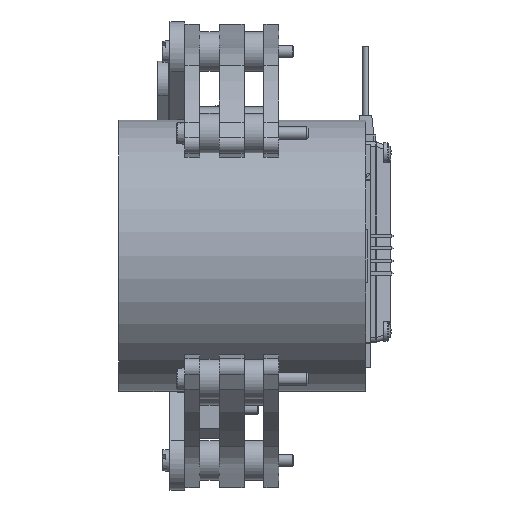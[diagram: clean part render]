
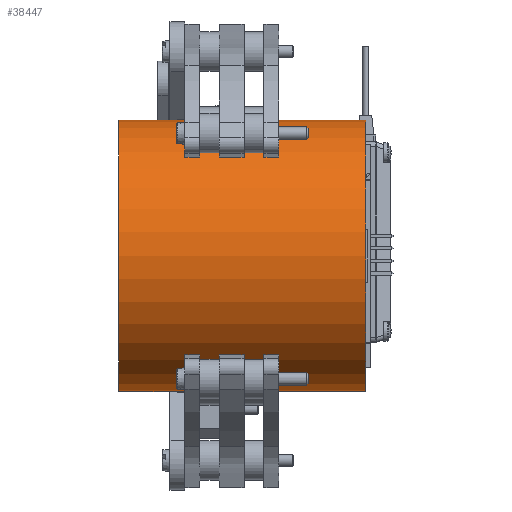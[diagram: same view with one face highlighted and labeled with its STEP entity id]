
A CAD part, left-side view. The second image highlights one B-rep face of the part: STEP entity #38447.
In plain terms, the highlighted cylindrical face has radius 27.5 mm (diameter 55 mm), a full revolution.
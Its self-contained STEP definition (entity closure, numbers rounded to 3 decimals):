
#6164=FACE_OUTER_BOUND('',#8478,.T.);
#8478=EDGE_LOOP('',(#35933,#35934,#35935,#35936));
#11711=LINE('',#90463,#14938);
#14938=VECTOR('',#50576,27.5);
#15907=CIRCLE('',#41818,27.5);
#15908=CIRCLE('',#41819,27.5);
#19491=VERTEX_POINT('',#90460);
#19492=VERTEX_POINT('',#90462);
#24973=EDGE_CURVE('',#19491,#19491,#15907,.T.);
#24974=EDGE_CURVE('',#19491,#19492,#11711,.T.);
#24975=EDGE_CURVE('',#19492,#19492,#15908,.T.);
#35933=ORIENTED_EDGE('',*,*,#24973,.F.);
#35934=ORIENTED_EDGE('',*,*,#24974,.T.);
#35935=ORIENTED_EDGE('',*,*,#24975,.F.);
#35936=ORIENTED_EDGE('',*,*,#24974,.F.);
#36361=CYLINDRICAL_SURFACE('',#41817,27.5);
#38447=ADVANCED_FACE('',(#6164),#36361,.T.);
#41817=AXIS2_PLACEMENT_3D('',#90459,#50572,#50573);
#41818=AXIS2_PLACEMENT_3D('',#90461,#50574,#50575);
#41819=AXIS2_PLACEMENT_3D('',#90464,#50577,#50578);
#50572=DIRECTION('center_axis',(0.,0.,-1.));
#50573=DIRECTION('ref_axis',(1.,0.,0.));
#50574=DIRECTION('center_axis',(0.,0.,-1.));
#50575=DIRECTION('ref_axis',(1.,0.,0.));
#50576=DIRECTION('',(0.,0.,1.));
#50577=DIRECTION('center_axis',(0.,0.,1.));
#50578=DIRECTION('ref_axis',(1.,0.,0.));
#90459=CARTESIAN_POINT('Origin',(90.159,-11.162,0.));
#90460=CARTESIAN_POINT('',(62.659,-11.162,-50.));
#90461=CARTESIAN_POINT('Origin',(90.159,-11.162,-50.));
#90462=CARTESIAN_POINT('',(62.659,-11.162,0.));
#90463=CARTESIAN_POINT('',(62.659,-11.162,0.));
#90464=CARTESIAN_POINT('Origin',(90.159,-11.162,0.));
